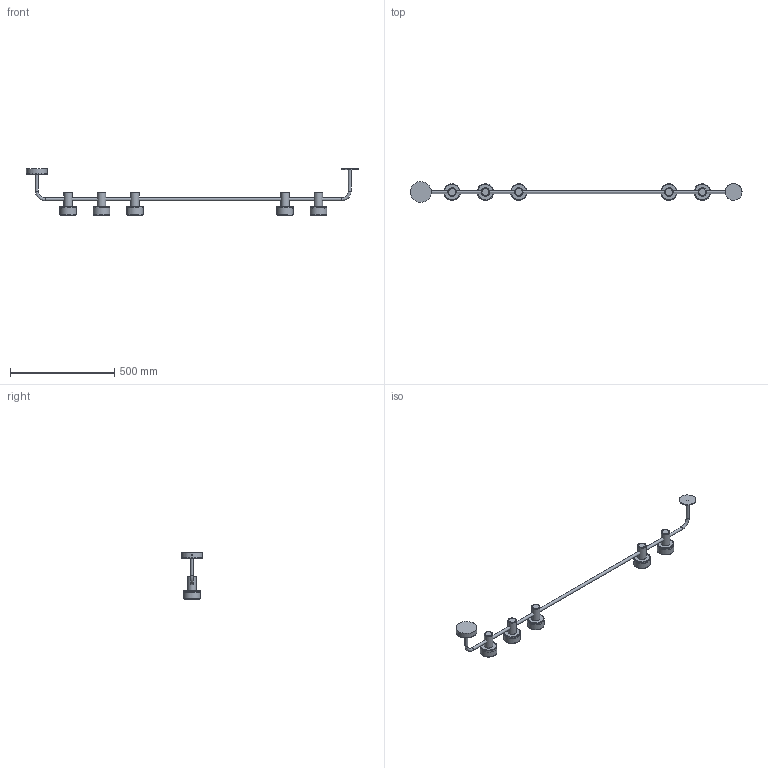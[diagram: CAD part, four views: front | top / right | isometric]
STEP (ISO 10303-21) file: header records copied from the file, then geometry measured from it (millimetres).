
FILE_DESCRIPTION ((), '1');
FILE_NAME ('G:\_Liczy się słowo\_Modelowanie SIGMA\MONA\gotowe\MONA 5\MONA 5.stp', '2024-11-15T10:21:37', ('Unknown'), ('Unknown'), 'HarmonyWare STEP v2.1.4', 'HarmonyWare Translators', '');
FILE_SCHEMA (('CONFIG_CONTROL_DESIGN'));
Length unit declared in the file: centimetre
Products named in the file (14): klosz; żarówka; ISO7380 Hexagon socket button head screw Lustro; ISO7380 Hexagon socket button head screw; podsufitka 100
Assembly tree (13 placements, depth 2):
  (unnamed)
    klosz
    klosz
    żarówka
    żarówka
    klosz
    ISO7380 Hexagon socket button head screw Lustro
    żarówka
    żarówka
    żarówka
    klosz
    klosz
    ISO7380 Hexagon socket button head screw
    podsufitka 100
Bounding box: 1591.95 x 100 x 223 mm (x, y, z)
Volume: 1296329.7 mm3; surface area: 418549.8 mm2
Topology: 13 solids, 13 shells, 306 faces, 708 edges, 433 vertices
Faces by surface type: bspline 306
Entity records: 19955 total; most frequent: CARTESIAN_POINT 14146, ORIENTED_EDGE 1384, EDGE_CURVE 692, VERTEX_POINT 433, B_SPLINE_CURVE_WITH_KNOTS 333, EDGE_LOOP 327, FACE_OUTER_BOUND 306, ADVANCED_FACE 306
